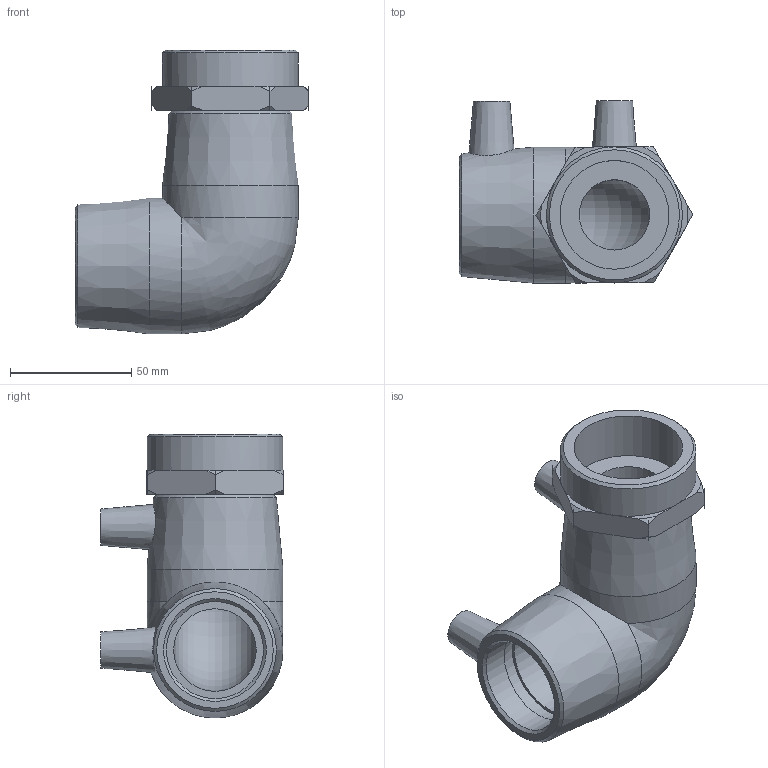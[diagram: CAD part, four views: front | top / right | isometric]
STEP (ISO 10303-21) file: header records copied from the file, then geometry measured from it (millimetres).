
FILE_DESCRIPTION(/* description */ ('PLASSON 90° ELBOW FEMALE TRANSITION 40-1.1/2'''''),/* implementation_level */ '2;1');
FILE_NAME(/* name */ 'C:\Dropbox\KIMPROJECTS-Inventor\99-16-3568-Processing\ElectroFusion Fittings\02.02.20\493504\493504040015.ipt.stp',/* time_stamp */ '2020-02-02T12:34:31+02:00',/* author */ ('KIM'),/* organization */ (''),/* preprocessor_version */ 'ST-DEVELOPER v15.6',/* originating_system */ 'Autodesk Inventor 2015',/* authorisation */ '');
FILE_SCHEMA (('AUTOMOTIVE_DESIGN { 1 0 10303 214 3 1 1 }'));
Length unit declared in the file: millimetre
Products named in the file (1): 493504040015
Bounding box: 96.33 x 75.08 x 117 mm (x, y, z)
Volume: 202354.8 mm3; surface area: 51375.2 mm2
Topology: 1 solids, 2 shells, 76 faces, 206 edges, 141 vertices
Faces by surface type: plane 27, cylinder 25, cone 22, bspline 1, torus 1
Full cylindrical faces by diameter (mm): 4 x2, 10 x2, 29 x1, 40 x4, 44.845 x1, 56 x3
Entity records: 2375 total; most frequent: CARTESIAN_POINT 512, DIRECTION 384, ORIENTED_EDGE 332, AXIS2_PLACEMENT_3D 168, EDGE_CURVE 166, VERTEX_POINT 129, EDGE_LOOP 115, CIRCLE 91
